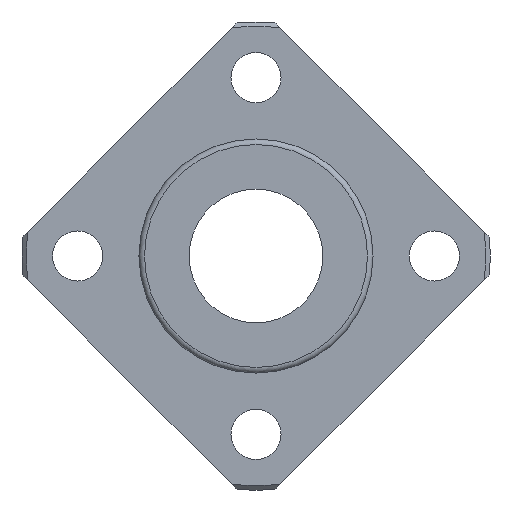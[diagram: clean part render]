
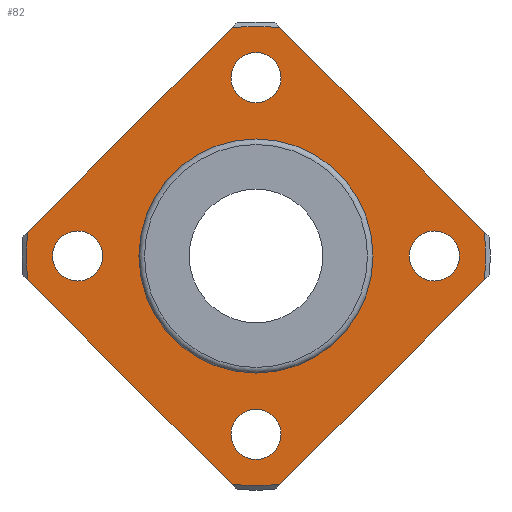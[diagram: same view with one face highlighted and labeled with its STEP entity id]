
A CAD part, left-side view. The second image highlights one B-rep face of the part: STEP entity #82.
In plain terms, the highlighted planar face has unit normal (-1, 0, 0).
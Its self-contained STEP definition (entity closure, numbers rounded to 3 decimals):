
#82=ADVANCED_FACE('',(#134,#135,#136,#137,#138,#139),#140,.T.);
#134=FACE_BOUND('',#249,.T.);
#135=FACE_BOUND('',#250,.T.);
#136=FACE_BOUND('',#251,.T.);
#137=FACE_BOUND('',#252,.T.);
#138=FACE_BOUND('',#253,.T.);
#139=FACE_OUTER_BOUND('',#254,.T.);
#140=PLANE('',#255);
#249=EDGE_LOOP('',(#402));
#250=EDGE_LOOP('',(#403));
#251=EDGE_LOOP('',(#404));
#252=EDGE_LOOP('',(#405));
#253=EDGE_LOOP('',(#406));
#254=EDGE_LOOP('',(#407,#408,#409,#410,#411,#412,#413,#414));
#255=AXIS2_PLACEMENT_3D('',#415,#416,#417);
#402=ORIENTED_EDGE('',*,*,#654,.F.);
#403=ORIENTED_EDGE('',*,*,#655,.T.);
#404=ORIENTED_EDGE('',*,*,#656,.T.);
#405=ORIENTED_EDGE('',*,*,#657,.T.);
#406=ORIENTED_EDGE('',*,*,#658,.T.);
#407=ORIENTED_EDGE('',*,*,#631,.T.);
#408=ORIENTED_EDGE('',*,*,#622,.T.);
#409=ORIENTED_EDGE('',*,*,#659,.T.);
#410=ORIENTED_EDGE('',*,*,#660,.T.);
#411=ORIENTED_EDGE('',*,*,#661,.T.);
#412=ORIENTED_EDGE('',*,*,#633,.T.);
#413=ORIENTED_EDGE('',*,*,#662,.T.);
#414=ORIENTED_EDGE('',*,*,#641,.T.);
#415=CARTESIAN_POINT('',(-6.0,15.375,0.0));
#416=DIRECTION('',(-1.0,0.0,0.));
#417=DIRECTION('',(0.,0.0,1.0));
#622=EDGE_CURVE('',#698,#699,#700,.T.);
#631=EDGE_CURVE('',#716,#698,#717,.T.);
#633=EDGE_CURVE('',#719,#720,#721,.T.);
#641=EDGE_CURVE('',#735,#716,#736,.T.);
#654=EDGE_CURVE('',#760,#760,#761,.T.);
#655=EDGE_CURVE('',#762,#762,#763,.T.);
#656=EDGE_CURVE('',#764,#764,#765,.T.);
#657=EDGE_CURVE('',#766,#766,#767,.T.);
#658=EDGE_CURVE('',#768,#768,#769,.T.);
#659=EDGE_CURVE('',#699,#770,#771,.T.);
#660=EDGE_CURVE('',#770,#772,#773,.T.);
#661=EDGE_CURVE('',#772,#719,#774,.T.);
#662=EDGE_CURVE('',#720,#735,#775,.T.);
#698=VERTEX_POINT('',#834);
#699=VERTEX_POINT('',#835);
#700=LINE('',#836,#837);
#716=VERTEX_POINT('',#868);
#717=CIRCLE('',#869,20.6);
#719=VERTEX_POINT('',#874);
#720=VERTEX_POINT('',#875);
#721=LINE('',#876,#877);
#735=VERTEX_POINT('',#906);
#736=LINE('',#907,#908);
#760=VERTEX_POINT('',#944);
#761=CIRCLE('',#945,10.15);
#762=VERTEX_POINT('',#946);
#763=CIRCLE('',#947,2.25);
#764=VERTEX_POINT('',#948);
#765=CIRCLE('',#949,2.25);
#766=VERTEX_POINT('',#950);
#767=CIRCLE('',#951,2.25);
#768=VERTEX_POINT('',#952);
#769=CIRCLE('',#953,2.25);
#770=VERTEX_POINT('',#954);
#771=CIRCLE('',#955,20.6);
#772=VERTEX_POINT('',#956);
#773=LINE('',#957,#958);
#774=CIRCLE('',#959,20.6);
#775=CIRCLE('',#960,20.6);
#834=CARTESIAN_POINT('',(-6.0,-20.489,2.139));
#835=CARTESIAN_POINT('',(-6.0,-2.139,20.489));
#836=CARTESIAN_POINT('',(-6.0,-3.626,19.001));
#837=VECTOR('',#1034,1.0);
#868=CARTESIAN_POINT('',(-6.0,-20.489,-2.139));
#869=AXIS2_PLACEMENT_3D('',#1041,#1042,#1043);
#874=CARTESIAN_POINT('',(-6.0,20.489,-2.139));
#875=CARTESIAN_POINT('',(-6.0,2.139,-20.489));
#876=CARTESIAN_POINT('',(-6.0,19.001,-3.626));
#877=VECTOR('',#1044,1.0);
#906=CARTESIAN_POINT('',(-6.0,-2.139,-20.489));
#907=CARTESIAN_POINT('',(-6.0,-3.626,-19.001));
#908=VECTOR('',#1048,1.0);
#944=CARTESIAN_POINT('',(-6.0,10.15,0.0));
#945=AXIS2_PLACEMENT_3D('',#1070,#1071,#1072);
#946=CARTESIAN_POINT('',(-6.0,16.0,2.25));
#947=AXIS2_PLACEMENT_3D('',#1073,#1074,#1075);
#948=CARTESIAN_POINT('',(-6.0,0.0,-13.75));
#949=AXIS2_PLACEMENT_3D('',#1076,#1077,#1078);
#950=CARTESIAN_POINT('',(-6.0,-16.0,2.25));
#951=AXIS2_PLACEMENT_3D('',#1079,#1080,#1081);
#952=CARTESIAN_POINT('',(-6.0,0.0,18.25));
#953=AXIS2_PLACEMENT_3D('',#1082,#1083,#1084);
#954=CARTESIAN_POINT('',(-6.0,2.139,20.489));
#955=AXIS2_PLACEMENT_3D('',#1085,#1086,#1087);
#956=CARTESIAN_POINT('',(-6.0,20.489,2.139));
#957=CARTESIAN_POINT('',(-6.0,19.001,3.626));
#958=VECTOR('',#1088,1.0);
#959=AXIS2_PLACEMENT_3D('',#1089,#1090,#1091);
#960=AXIS2_PLACEMENT_3D('',#1092,#1093,#1094);
#1034=DIRECTION('',(0.,0.707,0.707));
#1041=CARTESIAN_POINT('',(-6.0,0.0,0.0));
#1042=DIRECTION('',(-1.0,0.0,0.));
#1043=DIRECTION('',(0.0,1.0,0.0));
#1044=DIRECTION('',(0.,-0.707,-0.707));
#1048=DIRECTION('',(0.,-0.707,0.707));
#1070=CARTESIAN_POINT('',(-6.0,0.0,0.0));
#1071=DIRECTION('',(-1.0,0.0,0.));
#1072=DIRECTION('',(0.0,1.0,0.0));
#1073=CARTESIAN_POINT('',(-6.0,16.0,0.));
#1074=DIRECTION('',(1.0,0.0,0.));
#1075=DIRECTION('',(0.,0.0,-1.0));
#1076=CARTESIAN_POINT('',(-6.0,0.0,-16.0));
#1077=DIRECTION('',(1.0,0.0,0.));
#1078=DIRECTION('',(0.,0.0,-1.0));
#1079=CARTESIAN_POINT('',(-6.0,-16.0,0.));
#1080=DIRECTION('',(1.0,0.0,0.));
#1081=DIRECTION('',(0.,0.0,-1.0));
#1082=CARTESIAN_POINT('',(-6.0,0.0,16.0));
#1083=DIRECTION('',(1.0,0.0,0.));
#1084=DIRECTION('',(0.,0.0,-1.0));
#1085=CARTESIAN_POINT('',(-6.0,0.0,0.0));
#1086=DIRECTION('',(-1.0,0.0,0.));
#1087=DIRECTION('',(0.0,1.0,0.0));
#1088=DIRECTION('',(0.,0.707,-0.707));
#1089=CARTESIAN_POINT('',(-6.0,0.0,0.0));
#1090=DIRECTION('',(-1.0,0.0,0.));
#1091=DIRECTION('',(0.0,1.0,0.0));
#1092=CARTESIAN_POINT('',(-6.0,0.0,0.0));
#1093=DIRECTION('',(-1.0,0.0,0.));
#1094=DIRECTION('',(0.0,1.0,0.0));
